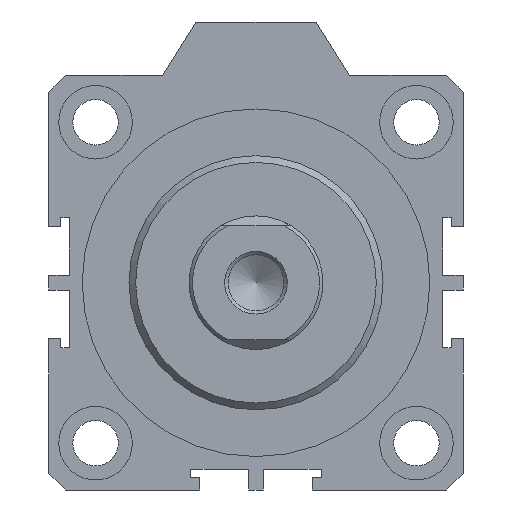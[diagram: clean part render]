
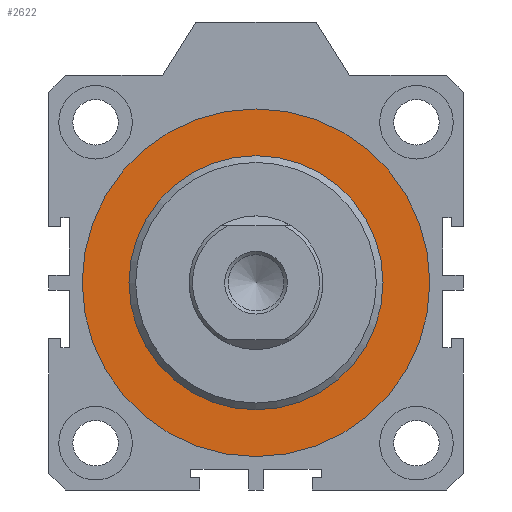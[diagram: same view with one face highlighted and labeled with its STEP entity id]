
A CAD part, front view. The second image highlights one B-rep face of the part: STEP entity #2622.
In plain terms, the highlighted planar face has unit normal (0, -1, 0).
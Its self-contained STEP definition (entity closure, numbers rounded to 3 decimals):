
#826=ORIENTED_EDGE('',*,*,#1060,.T.);
#827=ORIENTED_EDGE('',*,*,#1062,.T.);
#1060=EDGE_CURVE('',#1233,#1233,#1301,.T.);
#1062=EDGE_CURVE('',#1235,#1235,#1303,.F.);
#1233=VERTEX_POINT('',#3883);
#1235=VERTEX_POINT('',#3889);
#1301=CIRCLE('',#2820,26.);
#1303=CIRCLE('',#2824,19.);
#1479=EDGE_LOOP('',(#826));
#1480=EDGE_LOOP('',(#827));
#1666=FACE_BOUND('',#1479,.T.);
#1667=FACE_BOUND('',#1480,.T.);
#1758=PLANE('',#2823);
#2622=ADVANCED_FACE('',(#1666,#1667),#1758,.T.);
#2820=AXIS2_PLACEMENT_3D('',#3882,#3335,#3336);
#2823=AXIS2_PLACEMENT_3D('',#3887,#3341,#3342);
#2824=AXIS2_PLACEMENT_3D('',#3888,#3343,#3344);
#3335=DIRECTION('',(0.,-1.,0.));
#3336=DIRECTION('',(0.,0.,-1.));
#3341=DIRECTION('',(0.,-1.,0.));
#3342=DIRECTION('',(0.,0.,-1.));
#3343=DIRECTION('',(0.,-1.,0.));
#3344=DIRECTION('',(0.,0.,-1.));
#3882=CARTESIAN_POINT('',(0.,-2.6,0.));
#3883=CARTESIAN_POINT('',(0.,-2.6,-26.));
#3887=CARTESIAN_POINT('',(0.,-2.6,0.));
#3888=CARTESIAN_POINT('',(0.,-2.6,0.));
#3889=CARTESIAN_POINT('',(0.,-2.6,-19.));
